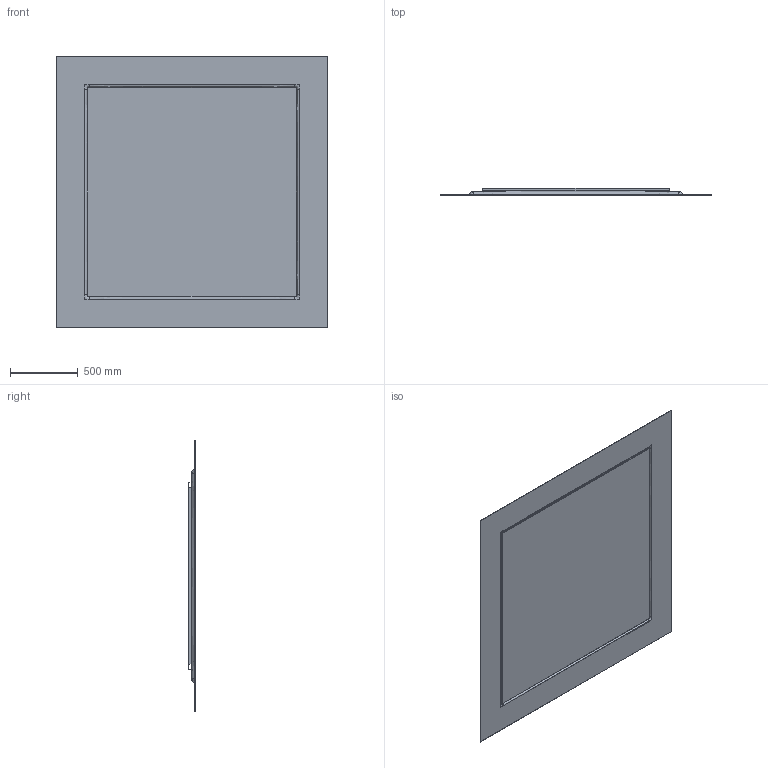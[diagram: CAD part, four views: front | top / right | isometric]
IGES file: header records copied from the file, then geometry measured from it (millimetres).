
Global section: file name: C:\Users\l.marzoli\Desktop\3D_files_2022\VENUS-mirror_3D\200x200\Venus-200x200.igs; native system: Rhinoceros ( Aug 11 2021 ); preprocessor: Trout Lake IGES 012 Aug 11 2021; date: 221017.104149; units: millimetre
Bounding box: 2000 x 50.13 x 2000 mm (x, y, z)
Surface area: 14717058.8 mm2 (no closed solid volume)
Topology: 0 solids, 0 shells, 149 faces, 1638 edges, 1622 vertices
Faces by surface type: bspline 149
